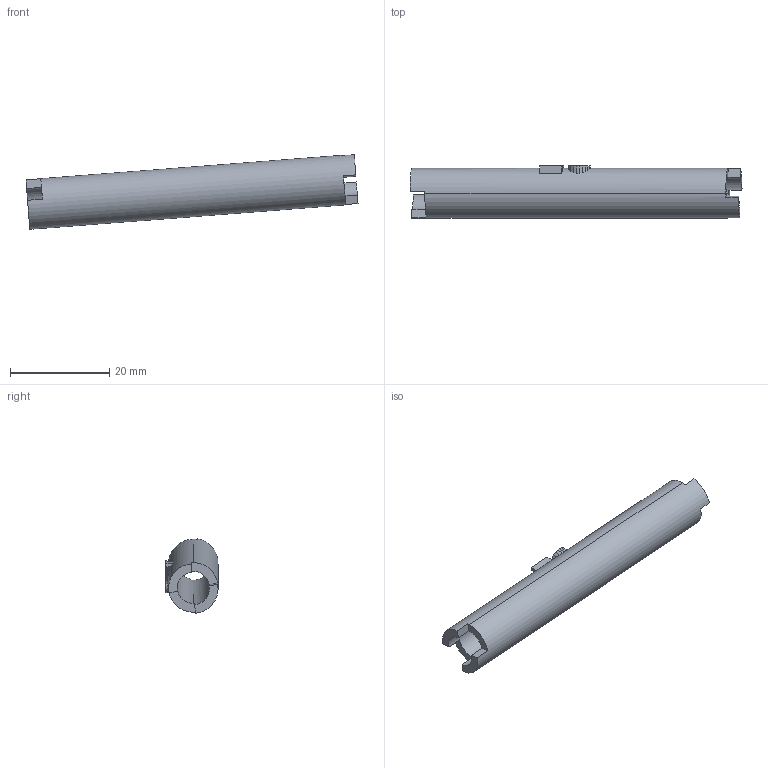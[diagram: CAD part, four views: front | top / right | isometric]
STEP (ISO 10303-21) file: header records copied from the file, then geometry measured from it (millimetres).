
FILE_DESCRIPTION((''),'2;1');
FILE_NAME('0000236847_PRT','2025-11-12T18:35:29',('Wyndorps'),(''),'CREO PARAMETRIC BY PTC INC, 2025010','CREO PARAMETRIC BY PTC INC, 2025010','');
FILE_SCHEMA(('CONFIG_CONTROL_DESIGN'));
Length unit declared in the file: millimetre
Products named in the file (1): 0000236847_PRT
Bounding box: 66.8 x 10.5 x 14.99 mm (x, y, z)
Volume: 2889.3 mm3; surface area: 3467.8 mm2
Topology: 1 solids, 1 shells, 111 faces, 324 edges, 216 vertices
Faces by surface type: plane 106, cylinder 5
Entity records: 3673 total; most frequent: CARTESIAN_POINT 785, ORIENTED_EDGE 648, DIRECTION 512, EDGE_CURVE 324, VECTOR 224, LINE 224, VERTEX_POINT 216, AXIS2_PLACEMENT_3D 144
